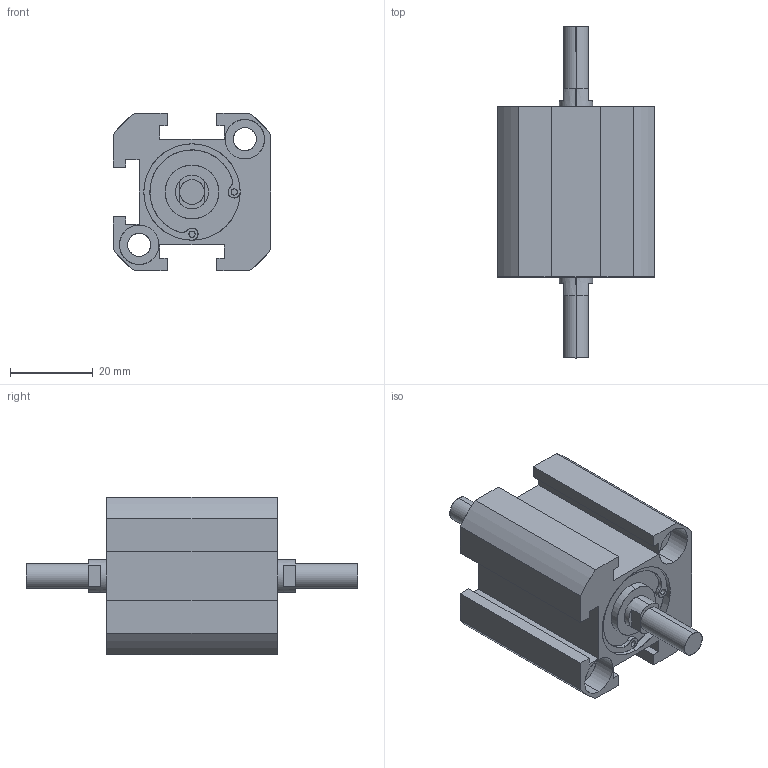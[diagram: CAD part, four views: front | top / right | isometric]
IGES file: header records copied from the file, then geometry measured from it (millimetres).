
Start section: SolidWorks IGES file using analytic representation for surfaces
Global section: file name: C:\Users\Toshiba\Desktop\XG#M7-20D-10.IGS; native system: SolidWorks 2014; preprocessor: SolidWorks 2014; author: Toshiba; date: 160524.102229; units: millimetre
Bounding box: 38 x 80 x 38 mm (x, y, z)
Surface area: 13607.9 mm2 (no closed solid volume)
Topology: 0 solids, 0 shells, 120 faces, 1860 edges, 1856 vertices
Faces by surface type: revolution 62, bspline 58
